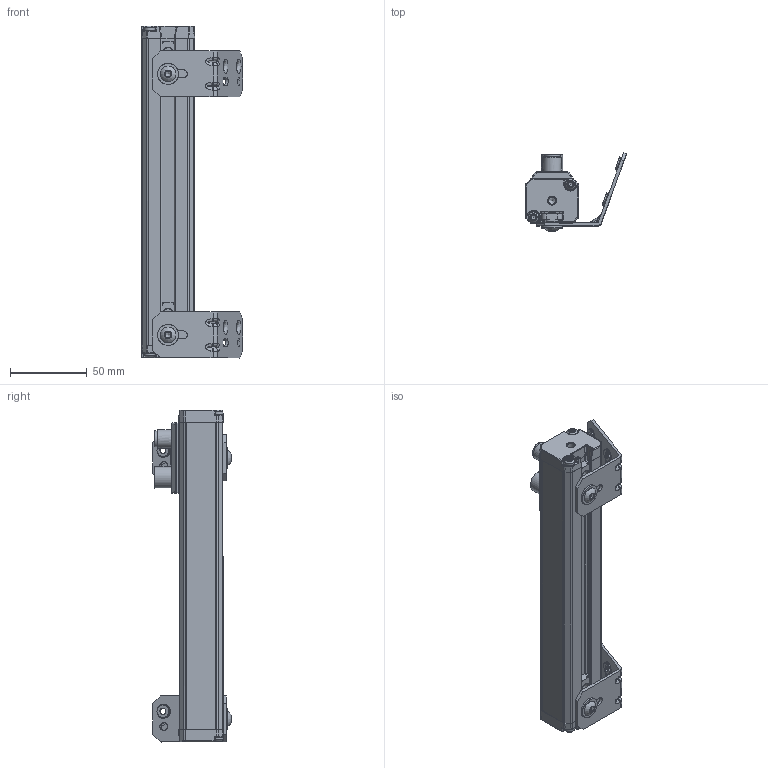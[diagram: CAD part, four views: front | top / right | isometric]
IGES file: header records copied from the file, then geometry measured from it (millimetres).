
Global section: file name: H:\3DCAD_OGS600_140.igs; native system: NX V11.0; preprocessor: SIEMENS PLM Software NX 11.0; date: 20171027.140357; units: millimetre
Bounding box: 65.8 x 50.97 x 216.19 mm (x, y, z)
Surface area: 60784 mm2 (no closed solid volume)
Topology: 0 solids, 0 shells, 911 faces, 5871 edges, 5728 vertices
Faces by surface type: bspline 911
